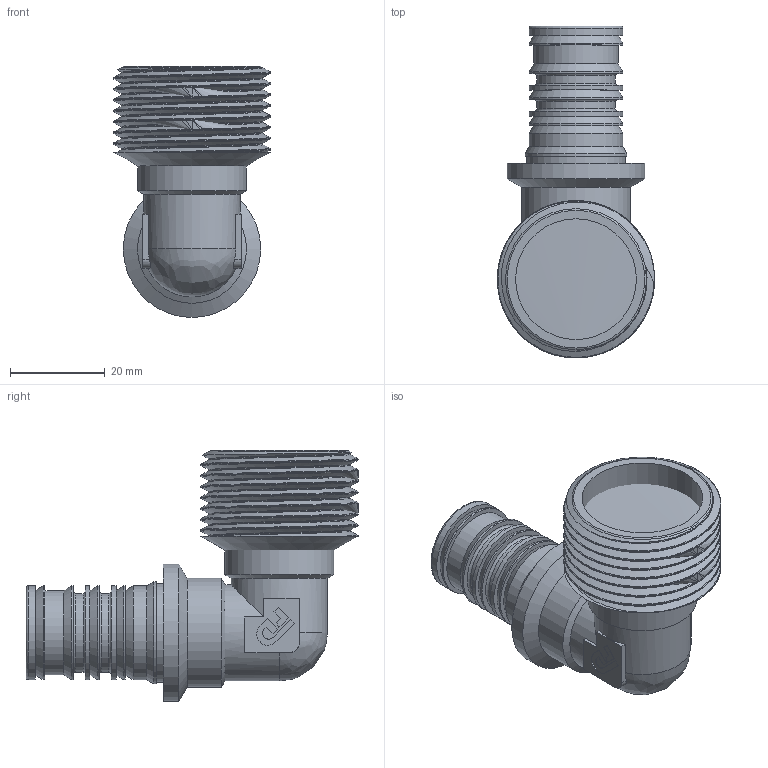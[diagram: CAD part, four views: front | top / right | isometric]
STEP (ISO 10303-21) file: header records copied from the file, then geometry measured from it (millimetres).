
FILE_DESCRIPTION(/* description */ (''),/* implementation_level */ '2;1');
FILE_NAME(/* name */ 'C:\Users\Doom\Desktop\Фадотех\Пресс\HDU25-1 31.03.2020\HDU25-1 31.03.2020.stp',/* time_stamp */ '2022-08-13T16:31:34+03:00',/* author */ ('Doom'),/* organization */ (''),/* preprocessor_version */ 'ST-DEVELOPER v18',/* originating_system */ 'Autodesk Inventor 2020',/* authorisation */ '');
FILE_SCHEMA (('AUTOMOTIVE_DESIGN { 1 0 10303 214 3 1 1 }'));
Length unit declared in the file: millimetre
Products named in the file (1): HDU25-1 31.03.2020
Bounding box: 33.2 x 70.1 x 53 mm (x, y, z)
Volume: 19804.9 mm3; surface area: 19241.5 mm2
Topology: 2 solids, 2 shells, 136 faces, 383 edges, 264 vertices
Faces by surface type: plane 61, cylinder 37, bspline 17, cone 16, torus 5
Full cylindrical faces by diameter (mm): 0 x1, 14.5 x1, 16.6 x2, 17 x1, 17.8 x1, 19.8 x8, 20.3 x2, 20.8 x1, 21.5 x1, 23 x2, 25.5 x1, 29 x1, 29.776 x2, 33.2 x9
Entity records: 9034 total; most frequent: CARTESIAN_POINT 5498, ORIENTED_EDGE 762, DIRECTION 689, EDGE_CURVE 381, VERTEX_POINT 264, AXIS2_PLACEMENT_3D 257, LINE 175, VECTOR 175
